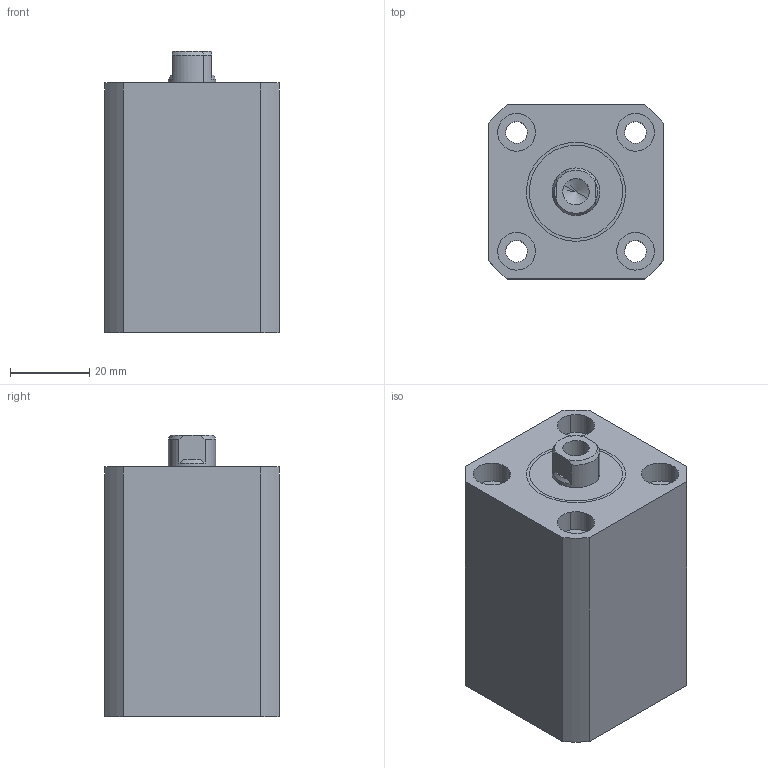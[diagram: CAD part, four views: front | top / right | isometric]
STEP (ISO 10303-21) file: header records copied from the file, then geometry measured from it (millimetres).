
FILE_DESCRIPTION(('CATIA V5 STEP Exchange'),'2;1');
FILE_NAME('\\Kjf-102\kjf_tc\Hydraulic_Clamp\Standard\BLOCK_CLAMP\BDV-20xx\Rev_B\배포도면\BDV-2020_B.stp','2025-03-14T04:36:20+00:00',('none'),('none'),'CATIA Version 5 Release 19 SP 6 (IN-10)','CATIA V5 STEP AP203','none');
FILE_SCHEMA(('CONFIG_CONTROL_DESIGN'));
Length unit declared in the file: millimetre
Products named in the file (1): BDV-20xx_B
Assembly tree (3 placements, depth 2):
  BDV-20xx_B
    #58
    #1356
    #1942
Bounding box: 44 x 44 x 71 mm (x, y, z)
Volume: 99254.1 mm3; surface area: 29322.3 mm2
Topology: 3 solids, 3 shells, 81 faces, 182 edges, 119 vertices
Faces by surface type: cylinder 46, plane 27, cone 8
Entity records: 2165 total; most frequent: CARTESIAN_POINT 391, ORIENTED_EDGE 360, DIRECTION 276, EDGE_CURVE 180, AXIS2_PLACEMENT_3D 154, VERTEX_POINT 119, EDGE_LOOP 105, CIRCLE 102
